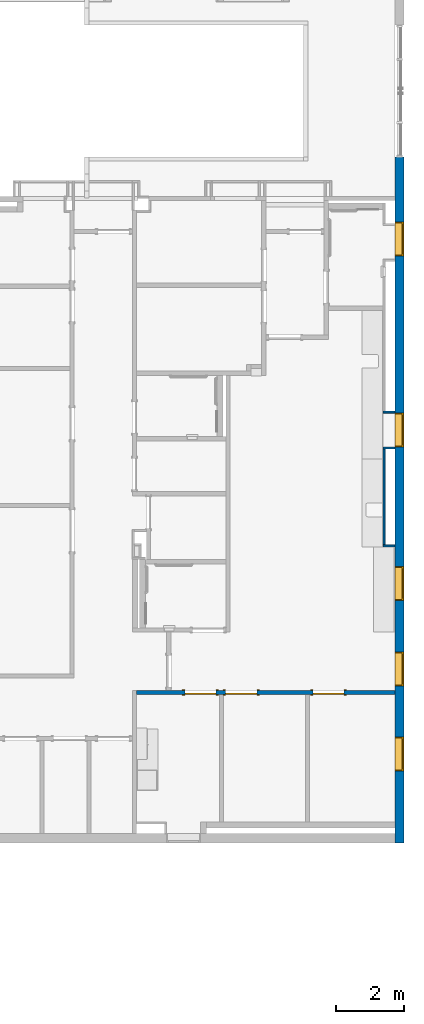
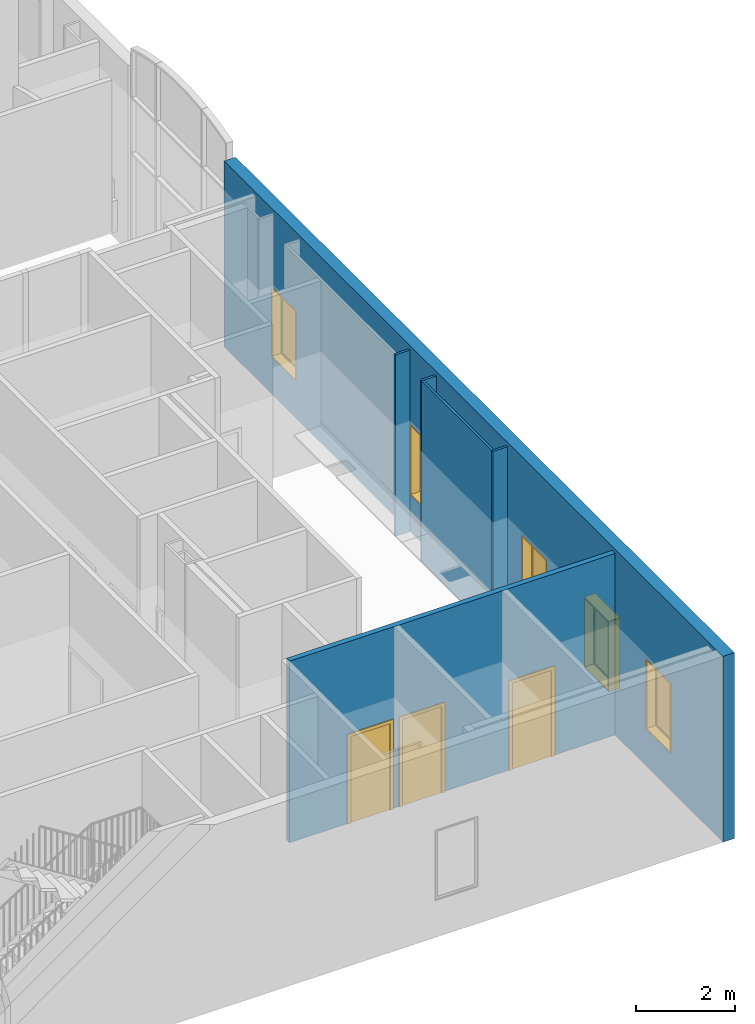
# One storey, part 25 of 82: 6 walls, 5 windows, 3 doors, 8 openings.
"""IFC2X3 building model written with IfcOpenShell, lengths in metres."""

from ifc_helpers import new_model, entity, si_unit, converted_unit, frame, frame_2d, origin, origin_2d_with_axis, place, context, project, spatial, polyline, rectangle, outline, extrude, source, transform, mapped, material, layer, layer_set, layer_usage, type_object, type_shapes, element, fill, save


model = new_model("IFC2X3")

# Units and contexts
model_context = context("Model", 3, precision=1e-09, world=origin())
plan_context = context("Plan", 3, precision=1e-09, world=origin())
ifc_project = project(units=[si_unit("LENGTHUNIT", "METRE"), si_unit("AREAUNIT", "SQUARE_METRE"), si_unit("VOLUMEUNIT", "CUBIC_METRE"), converted_unit("PLANEANGLEUNIT", "DEGREE", entity("IfcRatioMeasure", 0.01745329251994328), si_unit("PLANEANGLEUNIT", "RADIAN"), dimensions=[0, 0, 0, 0, 0, 0, 0]), si_unit("TIMEUNIT", "SECOND")], contexts=[model_context, plan_context])

# Site, building, storey
site_placement = place(None, origin())
site = spatial("IfcSite", under=ifc_project, at=site_placement, Name="Default", CompositionType="ELEMENT")
building_placement = place(site_placement, origin())
building = spatial("IfcBuilding", under=site, at=building_placement, CompositionType="ELEMENT")
storey_placement = place(building_placement, origin())
storey = spatial("IfcBuildingStorey", under=building, at=storey_placement, Name="First Floor", CompositionType="ELEMENT", Elevation=-3.531500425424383e-13)

# Wall, openings, windows
ifc_material_1 = material(Name="Insulation - Insulated Panel")
ifc_layer_1 = layer(ifc_material_1, 0.042)
ifc_material_2 = material(Name="Metal - Firring")
ifc_layer_2 = layer(ifc_material_2, 0.038)
ifc_material_3 = material(Name="Wood - Sheathing - plywood")
ifc_layer_3 = layer(ifc_material_3, 0.019)
ifc_material_4 = material(Name="Metal - Stud Layer")
ifc_layer_4 = layer(ifc_material_4, 0.152)
ifc_material_5 = material(Name="Plasterboard")
ifc_layer_5 = layer(ifc_material_5, 0.016)
ifc_layer_set_1 = layer_set([ifc_layer_1, ifc_layer_2, ifc_layer_3, ifc_layer_4, ifc_layer_5], Name="Basic Wall:Exterior - Insul Panel on Mtl. Stud")
ifc_layer_usage_1 = layer_usage(ifc_layer_set_1, "AXIS2", "NEGATIVE", 0.1335)
wall_1_placement = place(storey_placement, frame((0.246499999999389, 29.75999999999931, 0.0), z_axis=(0.0, 0.0, 1.0), x_axis=(0.0, -1.0, 0.0)))
wall_1 = element("IfcWallStandardCase", 1, at=wall_1_placement, inside=storey, material=ifc_layer_usage_1, Name="Basic Wall:Exterior - Insul Panel on Mtl. Stud", ObjectType="Basic Wall:Exterior - Insul Panel on Mtl. Stud", context=model_context, shape_type="SweptSolid", body=[
    extrude(rectangle(XDim=20.10000000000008, YDim=0.267, at=frame_2d((10.05000000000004, 0.0), x_axis=(-1.0, 0.0))), origin(), (0.0, 0.0, 1.0), 4.570000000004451),
])
opening_1_placement = place(wall_1_placement, frame((12.0, -0.1335000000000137, 0.9049999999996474)))
opening_1 = element("IfcOpeningElement", 2, at=opening_1_placement, cuts=wall_1, Name=":1", ObjectType="Opening", context=model_context, shape_type="SweptSolid", body=[
    extrude(rectangle(XDim=1.734999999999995, YDim=0.9999999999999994, at=frame_2d((0.8674999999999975, 0.5000000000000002), x_axis=(1.0, 0.0))), frame((0.0, 0.0, 0.0), z_axis=(0.0, 1.0, 0.0), x_axis=(0.0, 0.0, 1.0)), (0.0, 0.0, 1.0), 0.267),
])
opening_2_placement = place(wall_1_placement, frame((17.0, -0.1335000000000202, 0.9049999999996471)))
opening_2 = element("IfcOpeningElement", 3, at=opening_2_placement, cuts=wall_1, Name=":1", ObjectType="Opening", context=model_context, shape_type="SweptSolid", body=[
    extrude(rectangle(XDim=1.734999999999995, YDim=0.9999999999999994, at=frame_2d((0.8674999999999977, 0.5000000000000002), x_axis=(1.0, 0.0))), frame((0.0, 0.0, 0.0), z_axis=(0.0, 1.0, 0.0), x_axis=(0.0, 0.0, 1.0)), (0.0, 0.0, 1.0), 0.267),
])
opening_3_placement = place(wall_1_placement, frame((1.900938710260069, -0.1335000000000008, 0.9049999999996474)))
opening_3 = element("IfcOpeningElement", 4, at=opening_3_placement, cuts=wall_1, Name=":1", ObjectType="Opening", context=model_context, shape_type="SweptSolid", body=[
    extrude(rectangle(XDim=1.734999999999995, YDim=0.9999999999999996, at=frame_2d((0.8674999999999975, 0.4999999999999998), x_axis=(1.0, 0.0))), frame((0.0, 0.0, 0.0), z_axis=(0.0, 1.0, 0.0), x_axis=(0.0, 0.0, 1.0)), (0.0, 0.0, 1.0), 0.267),
])
opening_4_placement = place(wall_1_placement, frame((14.50000000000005, -0.1335000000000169, 0.9049999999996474)))
opening_4 = element("IfcOpeningElement", 5, at=opening_4_placement, cuts=wall_1, Name=":1", ObjectType="Opening", context=model_context, shape_type="SweptSolid", body=[
    extrude(rectangle(XDim=1.734999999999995, YDim=0.9999999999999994, at=frame_2d((0.8674999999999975, 0.5000000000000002), x_axis=(1.0, 0.0))), frame((0.0, 0.0, 0.0), z_axis=(0.0, 1.0, 0.0), x_axis=(0.0, 0.0, 1.0)), (0.0, 0.0, 1.0), 0.267),
])
opening_5_placement = place(wall_1_placement, frame((7.500000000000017, -0.133500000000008, 0.9049999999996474)))
opening_5 = element("IfcOpeningElement", 6, at=opening_5_placement, cuts=wall_1, Name=":1", ObjectType="Opening", context=model_context, shape_type="SweptSolid", body=[
    extrude(rectangle(XDim=1.734999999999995, YDim=0.9999999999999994, at=frame_2d((0.8674999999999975, 0.5000000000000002), x_axis=(1.0, 0.0))), frame((0.0, 0.0, 0.0), z_axis=(0.0, 1.0, 0.0), x_axis=(0.0, 0.0, 1.0)), (0.0, 0.0, 1.0), 0.267),
])
window_style = type_object("IfcWindowStyle", Name="1735 x 1000mm", ConstructionType="NOTDEFINED", OperationType="NOTDEFINED", ParameterTakesPrecedence=False, Sizeable=False)
shared_shape_1 = source(origin(), model_context, "Body", "SweptSolid", [
    extrude(rectangle(XDim=0.012, YDim=0.873999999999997, at=origin_2d_with_axis()), frame((0.5000000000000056, 0.2259999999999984, 0.06299999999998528), z_axis=(0.0, 0.0, 1.0), x_axis=(0.0, -1.0, 0.0)), (0.0, 0.0, 1.0), 1.609000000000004),
    extrude(outline(polyline([(-0.4809999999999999, -0.8485000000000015), (0.4809999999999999, -0.8485000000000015), (0.4809999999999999, 0.8485000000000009), (-0.4809999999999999, 0.8485000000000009), (-0.4809999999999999, -0.8485000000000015)]), holes=[polyline([(-0.4369999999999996, -0.8045000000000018), (-0.4369999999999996, 0.8045000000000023), (0.4369999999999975, 0.8045000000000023), (0.4369999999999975, -0.8045000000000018), (-0.4369999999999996, -0.8045000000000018)])]), frame((0.5000000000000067, 0.203999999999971, 0.8674999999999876), z_axis=(0.0, 1.0, 0.0), x_axis=(1.0, 0.0, 0.0)), (0.0, 0.0, 1.0), 0.04400000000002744),
    extrude(outline(polyline([(-0.4999999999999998, -0.8674999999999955), (0.4999999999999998, -0.8674999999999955), (0.4999999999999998, 0.8674999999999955), (-0.4999999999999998, 0.8674999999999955), (-0.4999999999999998, -0.8674999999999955)]), holes=[polyline([(-0.4810000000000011, -0.8484999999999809), (-0.4810000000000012, 0.8485000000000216), (0.4809999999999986, 0.8485000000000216), (0.4809999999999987, -0.8484999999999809), (-0.4810000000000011, -0.8484999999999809)])]), frame((0.500000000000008, 0.203999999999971, 0.8675000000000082), z_axis=(0.0, 1.0, 0.0), x_axis=(1.0, 0.0, 0.0)), (0.0, 0.0, 1.0), 0.06300000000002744),
    extrude(outline(polyline([(-0.5000000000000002, -0.867499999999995), (0.5000000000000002, -0.867499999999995), (0.5000000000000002, 0.867499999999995), (-0.5000000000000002, 0.867499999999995), (-0.5000000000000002, -0.867499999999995)]), holes=[polyline([(-0.4679999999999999, -0.8354999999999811), (-0.4679999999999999, 0.8355000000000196), (0.4680000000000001, 0.8355000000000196), (0.4680000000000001, -0.8354999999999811), (-0.4679999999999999, -0.8354999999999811)])]), frame((0.5000000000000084, 0.0, 0.8675000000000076), z_axis=(0.0, 1.0, 0.0), x_axis=(1.0, 0.0, 0.0)), (0.0, 0.0, 1.0), 0.2039999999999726),
])
type_shapes(window_style, [shared_shape_1])
window_1_placement = place(opening_3_placement, origin())
window_1 = element("IfcWindow", 7, at=window_1_placement, inside=storey, type_object=window_style, Name="M_Fixed:1735 x 1000mm:1735 x 1000mm", ObjectType="1735 x 1000mm", OverallHeight=1.734999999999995, OverallWidth=0.9999999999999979, context=model_context, shape_type="MappedRepresentation", body=[
    mapped(shared_shape_1, transform((0.0, 0.0, 0.0), scale=1.0)),
])
fill(opening_3, window_1)
window_2_placement = place(opening_2_placement, origin())
window_2 = element("IfcWindow", 8, at=window_2_placement, inside=storey, type_object=window_style, Name="M_Fixed:1735 x 1000mm:1735 x 1000mm", ObjectType="1735 x 1000mm", OverallHeight=1.734999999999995, OverallWidth=1.0, context=model_context, shape_type="MappedRepresentation", body=[
    mapped(shared_shape_1, transform((0.0, 0.0, 0.0), scale=1.0)),
])
fill(opening_2, window_2)
window_3_placement = place(opening_5_placement, origin())
window_3 = element("IfcWindow", 9, at=window_3_placement, inside=storey, type_object=window_style, Name="M_Fixed:1735 x 1000mm:1735 x 1000mm", ObjectType="1735 x 1000mm", OverallHeight=1.734999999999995, OverallWidth=0.9999999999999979, context=model_context, shape_type="MappedRepresentation", body=[
    mapped(shared_shape_1, transform((0.0, 0.0, 0.0), scale=1.0)),
])
fill(opening_5, window_3)
window_4_placement = place(opening_4_placement, origin())
window_4 = element("IfcWindow", 10, at=window_4_placement, inside=storey, type_object=window_style, Name="M_Fixed:1735 x 1000mm:1735 x 1000mm", ObjectType="1735 x 1000mm", OverallHeight=1.734999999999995, OverallWidth=1.0, context=model_context, shape_type="MappedRepresentation", body=[
    mapped(shared_shape_1, transform((0.0, 0.0, 0.0), scale=1.0)),
])
fill(opening_4, window_4)
window_5_placement = place(opening_1_placement, origin())
window_5 = element("IfcWindow", 11, at=window_5_placement, inside=storey, type_object=window_style, Name="M_Fixed:1735 x 1000mm:1735 x 1000mm", ObjectType="1735 x 1000mm", OverallHeight=1.734999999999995, OverallWidth=1.0, context=model_context, shape_type="MappedRepresentation", body=[
    mapped(shared_shape_1, transform((0.0, 0.0, 0.0), scale=1.0)),
])
fill(opening_1, window_5)

# Wall, openings, doors
ifc_layer_6 = layer(ifc_material_5, 0.016)
ifc_layer_7 = layer(ifc_material_4, 0.092)
ifc_layer_8 = layer(ifc_material_5, 0.016)
ifc_layer_set_2 = layer_set([ifc_layer_6, ifc_layer_7, ifc_layer_8], Name="Basic Wall:Interior - Partition (92mm Stud)")
ifc_layer_usage_2 = layer_usage(ifc_layer_set_2, "AXIS2", "NEGATIVE", 0.062)
wall_2_placement = place(storey_placement, frame((-7.455975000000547, 14.06799999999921, 0.0)))
wall_2 = element("IfcWallStandardCase", 12, at=wall_2_placement, inside=storey, material=ifc_layer_usage_2, Name="Basic Wall:Interior - Partition (92mm Stud)", ObjectType="Basic Wall:Interior - Partition (92mm Stud)", context=model_context, shape_type="SweptSolid", body=[
    extrude(rectangle(XDim=7.568974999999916, YDim=0.1240000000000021, at=frame_2d((3.784487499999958, 0.0), x_axis=(-1.0, 0.0))), origin(), (0.0, 0.0, 1.0), 4.468000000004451),
])
opening_6_placement = place(wall_2_placement, frame((3.525000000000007, 0.06199999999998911, 0.0)))
opening_6 = element("IfcOpeningElement", 13, at=opening_6_placement, cuts=wall_2, Name="M_Single-Flush:0915 x 2134mm:0915 x 2134mm:1", ObjectType="Opening", context=model_context, shape_type="SweptSolid", body=[
    extrude(rectangle(XDim=0.9149999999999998, YDim=2.134, at=frame_2d((1.067, 0.4574999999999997), x_axis=(0.0, 1.0))), frame((0.0, 0.0, 0.0), z_axis=(0.0, -1.0, 0.0), x_axis=(0.0, 0.0, 1.0)), (0.0, 0.0, 1.0), 0.124),
])
opening_7_placement = place(wall_2_placement, frame((6.081000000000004, 0.06199999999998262, 0.0)))
opening_7 = element("IfcOpeningElement", 14, at=opening_7_placement, cuts=wall_2, Name="M_Single-Flush:0915 x 2134mm:0915 x 2134mm:1", ObjectType="Opening", context=model_context, shape_type="SweptSolid", body=[
    extrude(rectangle(XDim=0.9149999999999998, YDim=2.134, at=frame_2d((1.067, 0.4575), x_axis=(0.0, 1.0))), frame((0.0, 0.0, 0.0), z_axis=(0.0, -1.0, 0.0), x_axis=(0.0, 0.0, 1.0)), (0.0, 0.0, 1.0), 0.124),
])
opening_8_placement = place(wall_2_placement, frame((2.325999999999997, 0.06199999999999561, 0.0)))
opening_8 = element("IfcOpeningElement", 15, at=opening_8_placement, cuts=wall_2, Name="M_Single-Flush:0915 x 2134mm:0915 x 2134mm:1", ObjectType="Opening", context=model_context, shape_type="SweptSolid", body=[
    extrude(rectangle(XDim=0.9150000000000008, YDim=2.134, at=frame_2d((1.067, 0.4575000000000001), x_axis=(0.0, -1.0))), frame((0.0, 0.0, 0.0), z_axis=(0.0, -1.0, 0.0), x_axis=(0.0, 0.0, 1.0)), (0.0, 0.0, 1.0), 0.124),
])
door_style_1 = type_object("IfcDoorStyle", Name="0915 x 2134mm", ConstructionType="NOTDEFINED", OperationType="SINGLE_SWING_RIGHT", ParameterTakesPrecedence=False, Sizeable=False)
shared_shape_2 = source(origin(), model_context, "Body", "SweptSolid", [
    extrude(outline(polyline([(-0.5335, -1.123999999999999), (0.5334999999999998, -1.123999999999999), (0.5334999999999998, 1.086), (0.4574999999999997, 1.086), (0.4574999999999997, -1.048000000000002), (-0.4574999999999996, -1.048000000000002), (-0.4574999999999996, 1.086), (-0.5335, 1.086), (-0.5335, -1.123999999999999)])), frame((0.4575000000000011, 0.1239999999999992, 1.086), z_axis=(0.0, 1.0, 0.0), x_axis=(1.0, 0.0, 0.0)), (0.0, 0.0, 1.0), 0.02499999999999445),
    extrude(outline(polyline([(-1.123999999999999, -0.5334999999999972), (1.085999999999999, -0.5334999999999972), (1.085999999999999, -0.4575000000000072), (-1.048, -0.4575000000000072), (-1.048, 0.4575000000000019), (1.085999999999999, 0.4575000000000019), (1.085999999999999, 0.5335000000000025), (-1.123999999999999, 0.5335000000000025), (-1.123999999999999, -0.5334999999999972)])), frame((0.4575000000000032, -0.02500000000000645, 1.085999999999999), z_axis=(0.0, 1.0, 0.0), x_axis=(0.0, 0.0, -1.0)), (0.0, 0.0, 1.0), 0.02500000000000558),
    extrude(rectangle(XDim=0.051, YDim=0.9149999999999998, at=origin_2d_with_axis()), frame((0.4575000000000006, 0.09849999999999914, 0.0), z_axis=(0.0, 0.0, 1.0), x_axis=(0.0, 1.0, 0.0)), (0.0, 0.0, 1.0), 2.133999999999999),
])
type_shapes(door_style_1, [shared_shape_2])
door_1_placement = place(opening_7_placement, frame((0.0, 0.0, 0.0), z_axis=(0.0, 0.0, 1.0), x_axis=(-1.0, 0.0, 0.0)))
door_1 = element("IfcDoor", 16, at=door_1_placement, inside=storey, type_object=door_style_1, Name="M_Single-Flush:0915 x 2134mm:0915 x 2134mm", ObjectType="0915 x 2134mm", OverallHeight=2.134, OverallWidth=0.9149999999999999, context=model_context, shape_type="MappedRepresentation", body=[
    mapped(shared_shape_2, transform((0.0, 0.0, 0.0), scale=1.0)),
])
fill(opening_7, door_1)
door_2_placement = place(opening_6_placement, frame((0.0, 0.0, 0.0), z_axis=(0.0, 0.0, 1.0), x_axis=(-1.0, 0.0, 0.0)))
door_2 = element("IfcDoor", 17, at=door_2_placement, inside=storey, type_object=door_style_1, Name="M_Single-Flush:0915 x 2134mm:0915 x 2134mm", ObjectType="0915 x 2134mm", OverallHeight=2.134, OverallWidth=0.9149999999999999, context=model_context, shape_type="MappedRepresentation", body=[
    mapped(shared_shape_2, transform((0.0, 0.0, 0.0), scale=1.0)),
])
fill(opening_6, door_2)
door_style_2 = type_object("IfcDoorStyle", Name="0915 x 2134mm", ConstructionType="NOTDEFINED", OperationType="SINGLE_SWING_LEFT", ParameterTakesPrecedence=False, Sizeable=False)
shared_shape_3 = source(origin(), model_context, "Body", "SweptSolid", [
    extrude(outline(polyline([(-0.5335, -1.123999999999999), (0.5334999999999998, -1.123999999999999), (0.5334999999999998, 1.086), (0.4574999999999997, 1.086), (0.4574999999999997, -1.048000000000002), (-0.4574999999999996, -1.048000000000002), (-0.4574999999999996, 1.086), (-0.5335, 1.086), (-0.5335, -1.123999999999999)])), frame((0.4575000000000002, 0.1489999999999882, 1.086), z_axis=(0.0, -1.0, 0.0), x_axis=(-1.0, 0.0, 0.0)), (0.0, 0.0, 1.0), 0.02499999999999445),
    extrude(outline(polyline([(-1.123999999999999, -0.5334999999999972), (1.085999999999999, -0.5334999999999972), (1.085999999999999, -0.4575000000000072), (-1.048, -0.4575000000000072), (-1.048, 0.4575000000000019), (1.085999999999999, 0.4575000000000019), (1.085999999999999, 0.5335000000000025), (-1.123999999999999, 0.5335000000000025), (-1.123999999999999, -0.5334999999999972)])), frame((0.4574999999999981, 0.0, 1.085999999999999), z_axis=(0.0, -1.0, 0.0), x_axis=(0.0, 0.0, -1.0)), (0.0, 0.0, 1.0), 0.02500000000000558),
    extrude(rectangle(XDim=0.9149999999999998, YDim=0.051, at=origin_2d_with_axis()), frame((0.4575000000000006, 0.09849999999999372, 0.0)), (0.0, 0.0, 1.0), 2.133999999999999),
])
type_shapes(door_style_2, [shared_shape_3])
door_3_placement = place(opening_8_placement, frame((0.0, 0.0, 0.0), z_axis=(0.0, 0.0, 1.0), x_axis=(-1.0, 0.0, 0.0)))
door_3 = element("IfcDoor", 18, at=door_3_placement, inside=storey, type_object=door_style_2, Name="M_Single-Flush:0915 x 2134mm:0915 x 2134mm", ObjectType="0915 x 2134mm", OverallHeight=2.134, OverallWidth=0.9149999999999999, context=model_context, shape_type="MappedRepresentation", body=[
    mapped(shared_shape_3, transform((0.0, 0.0, 0.0), scale=1.0)),
])
fill(opening_8, door_3)

# Walls
ifc_layer_9 = layer(ifc_material_4, 0.038)
ifc_layer_10 = layer(ifc_material_5, 0.016)
ifc_layer_set_3 = layer_set([ifc_layer_9, ifc_layer_10], Name="Basic Wall:Interior - Furring (38 mm Stud)")
ifc_layer_usage_3 = layer_usage(ifc_layer_set_3, "AXIS2", "POSITIVE", -0.027)
wall_3_placement = place(storey_placement, frame((-0.2030000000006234, 18.39199999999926, 0.0), z_axis=(0.0, 0.0, 1.0), x_axis=(0.0, 1.0, 0.0)))
element("IfcWallStandardCase", 19, at=wall_3_placement, inside=storey, material=ifc_layer_usage_3, Name="Basic Wall:Interior - Furring (38 mm Stud)", ObjectType="Basic Wall:Interior - Furring (38 mm Stud)", context=model_context, shape_type="SweptSolid", body=[
    extrude(rectangle(XDim=2.814000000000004, YDim=0.05399999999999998, at=frame_2d((1.407000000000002, 0.0), x_axis=(-1.0, 0.0))), origin(), (0.0, 0.0, 1.0), 4.46800000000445),
])
wall_4_placement = place(storey_placement, frame((0.1129999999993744, 18.36499999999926, 0.0), z_axis=(0.0, 0.0, 1.0), x_axis=(-1.0, 0.0, 0.0)))
element("IfcWallStandardCase", 20, at=wall_4_placement, inside=storey, material=ifc_layer_usage_3, Name="Basic Wall:Interior - Furring (38 mm Stud)", ObjectType="Basic Wall:Interior - Furring (38 mm Stud)", context=model_context, shape_type="SweptSolid", body=[
    extrude(rectangle(XDim=0.3429999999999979, YDim=0.05400000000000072, at=frame_2d((0.171499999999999, 0.0), x_axis=(-1.0, 0.0))), origin(), (0.0, 0.0, 1.0), 4.468000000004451),
])
wall_5_placement = place(storey_placement, frame((-0.2300000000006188, 21.23299999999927, 0.0)))
element("IfcWallStandardCase", 21, at=wall_5_placement, inside=storey, material=ifc_layer_usage_3, Name="Basic Wall:Interior - Furring (38 mm Stud)", ObjectType="Basic Wall:Interior - Furring (38 mm Stud)", context=model_context, shape_type="SweptSolid", body=[
    extrude(rectangle(XDim=0.3429999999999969, YDim=0.05399999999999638, at=frame_2d((0.1714999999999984, 0.0), x_axis=(-1.0, 0.0))), origin(), (0.0, 0.0, 1.0), 4.46800000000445),
])
wall_6_placement = place(storey_placement, frame((0.1129999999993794, 22.28699999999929, 0.0), z_axis=(0.0, 0.0, 1.0), x_axis=(-1.0, 0.0, 0.0)))
element("IfcWallStandardCase", 22, at=wall_6_placement, inside=storey, material=ifc_layer_usage_3, Name="Basic Wall:Interior - Furring (38 mm Stud)", ObjectType="Basic Wall:Interior - Furring (38 mm Stud)", context=model_context, shape_type="SweptSolid", body=[
    extrude(rectangle(XDim=0.3429999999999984, YDim=0.05399999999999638, at=frame_2d((0.1714999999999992, 0.0), x_axis=(-1.0, 0.0))), origin(), (0.0, 0.0, 1.0), 4.468000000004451),
])

save(model, "model.ifc")
